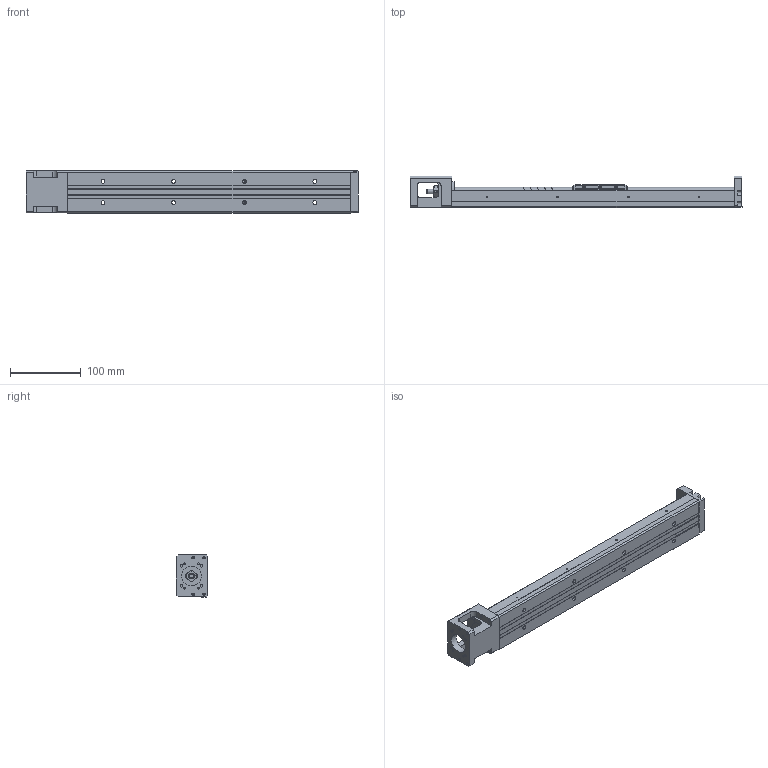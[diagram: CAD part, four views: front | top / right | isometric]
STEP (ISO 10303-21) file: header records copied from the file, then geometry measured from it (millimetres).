
FILE_DESCRIPTION(/* description */ (''),/* implementation_level */ '2;1');
FILE_NAME(/* name */ 'KP33N-400.stp',/* time_stamp */ '2020-06-04T14:08:21+08:00',/* author */ (''),/* organization */ (''),/* preprocessor_version */ 'ST-DEVELOPER v14',/* originating_system */ 'SIEMENS PLM Software NX 8.0',/* authorisation */ '');
FILE_SCHEMA (('AUTOMOTIVE_DESIGN { 1 0 10303 214 3 1 1 1 }'));
Length unit declared in the file: millimetre
Products named in the file (1): model1
Bounding box: 470 x 44.45 x 60 mm (x, y, z)
Volume: 526366.1 mm3; surface area: 148079.5 mm2
Topology: 5 solids, 14 shells, 659 faces, 1668 edges, 1100 vertices
Faces by surface type: plane 383, cylinder 189, bspline 31, cone 24, extrusion 21, torus 9, revolution 2
Full cylindrical faces by diameter (mm): 1.6 x4, 1.65 x4, 2.15 x4, 2.42 x4, 2.45 x4, 2.5 x12, 3 x3, 3.2 x4, 3.3 x4, 3.4 x3, 3.5 x10, 3.969 x1, 4 x6, 4.001 x1, 4.135 x4, 5.5 x8, 6 x5, 7.6 x1, 8 x5, 9.5 x8, 10.72 x3, 11.8 x2, 12 x6, 12.8 x1, 13 x2, 14 x1, 17.38 x3, 21.5 x1, 22 x2, 28 x1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
Entity records: 34061 total; most frequent: CARTESIAN_POINT 15606, DIRECTION 2976, ORIENTED_EDGE 2882, EDGE_CURVE 1441, AXIS2_PLACEMENT_3D 1060, VERTEX_POINT 1025, EDGE_LOOP 936, VECTOR 854
